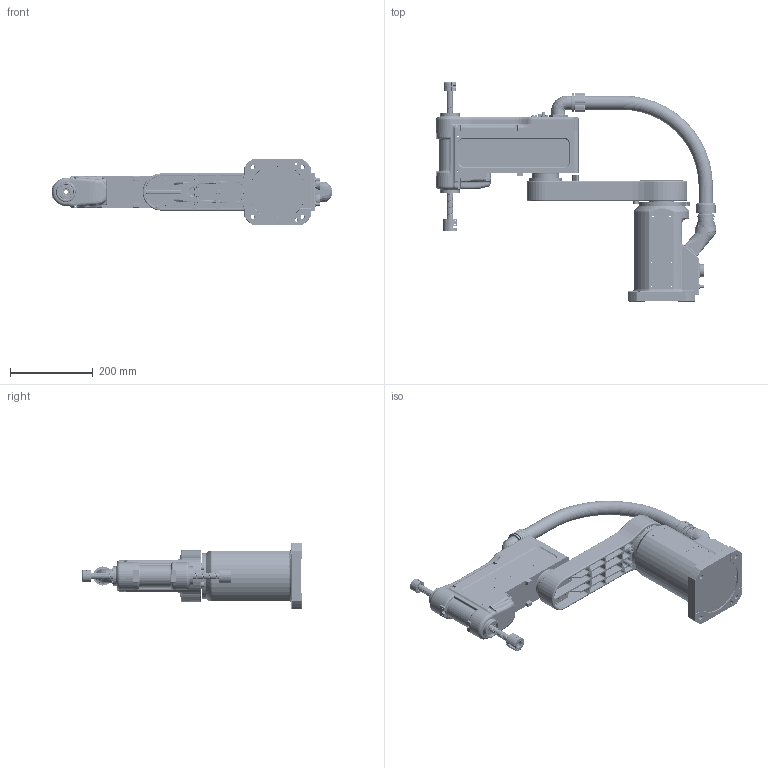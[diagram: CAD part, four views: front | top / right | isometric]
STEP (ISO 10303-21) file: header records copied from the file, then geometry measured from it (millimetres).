
FILE_DESCRIPTION (( 'STEP AP214' ), '1' );
FILE_NAME ('R4-0405 3D耀倰.STEP', '2023-06-08T07:22:32', ( 'iCura' ), ( 'ICOS' ), 'SwSTEP 2.0', 'SolidWorks 2018', '' );
FILE_SCHEMA (( 'AUTOMOTIVE_DESIGN' ));
Length unit declared in the file: millimetre
Products named in the file (7): R4-0404-4-00 J4粣_300; 疏恇奪R4-0405; 软管接头_1; R4-0405 3D耀倰; R4-0404-1-00; R4-0404-3-00 J3粣 ; R4-0405-2-00 _S400
Assembly tree (6 placements, depth 2):
  R4-0405 3D耀倰
    R4-0404-1-00
    R4-0405-2-00 _S400
    R4-0404-3-00 J3粣 
    R4-0404-4-00 J4粣_300
    软管接头_1
    疏恇奪R4-0405
Bounding box: 675.65 x 528.09 x 160 mm (x, y, z)
Volume: 177582.8 mm3; surface area: 927094.5 mm2
Topology: 2 solids, 356 shells, 2837 faces, 9588 edges, 6871 vertices
Faces by surface type: cylinder 1168, plane 877, cone 302, bspline 259, torus 201, sphere 30
Full cylindrical faces by diameter (mm): 1 x18, 2.5 x32, 2.6 x1, 3.2 x8, 3.242 x2, 3.3 x26, 3.4 x27, 3.5 x30, 4 x18, 4.2 x6, 4.5 x43, 5 x4, 5.5 x6, 6 x7, 6.5 x11, 7 x10, 8 x10, 9 x9, 10 x1, 13 x2, 14 x1, 16 x1, 16.5 x1, 26 x1, 29 x2, 30 x4, 30.2 x1, 32 x3, 33 x2, 34 x3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
Entity records: 156561 total; most frequent: CARTESIAN_POINT 50527, DIRECTION 16732, ORIENTED_EDGE 13943, EDGE_CURVE 8783, VERTEX_POINT 6725, AXIS2_PLACEMENT_3D 6724, CIRCLE 4136, EDGE_LOOP 4013
